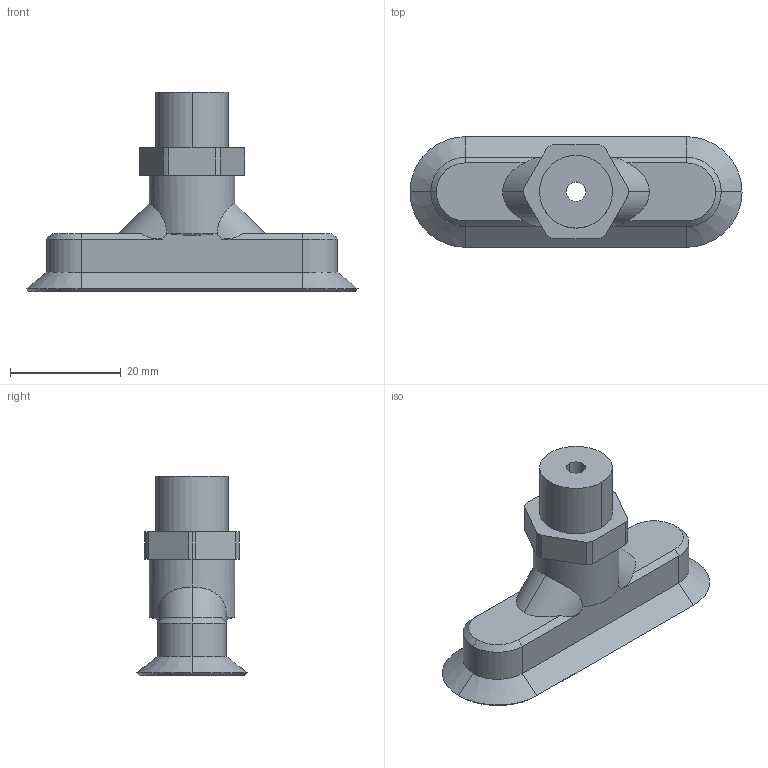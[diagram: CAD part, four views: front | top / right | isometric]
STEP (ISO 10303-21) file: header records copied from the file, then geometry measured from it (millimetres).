
FILE_DESCRIPTION(('STEP AP214'),'1');
FILE_NAME('10_01_05_00412.stp','2021-01-28T16:52:13',('TraceParts'),('TraceParts S.A.'),'Spatial InterOp 3D',' ',' ');
FILE_SCHEMA(('AUTOMOTIVE_DESIGN { 1 0 10303 214 1 1 1 1 }'));
Length unit declared in the file: millimetre
Products named in the file (1): 10_01_05_00412
Bounding box: 60 x 20 x 36 mm (x, y, z)
Volume: 9954.7 mm3; surface area: 5268.5 mm2
Topology: 1 solids, 4 shells, 91 faces, 214 edges, 134 vertices
Faces by surface type: plane 37, cylinder 34, cone 20
Entity records: 3469 total; most frequent: CARTESIAN_POINT 590, DIRECTION 460, ORIENTED_EDGE 428, EDGE_CURVE 214, AXIS2_PLACEMENT_3D 172, VERTEX_POINT 134, LINE 116, VECTOR 116
